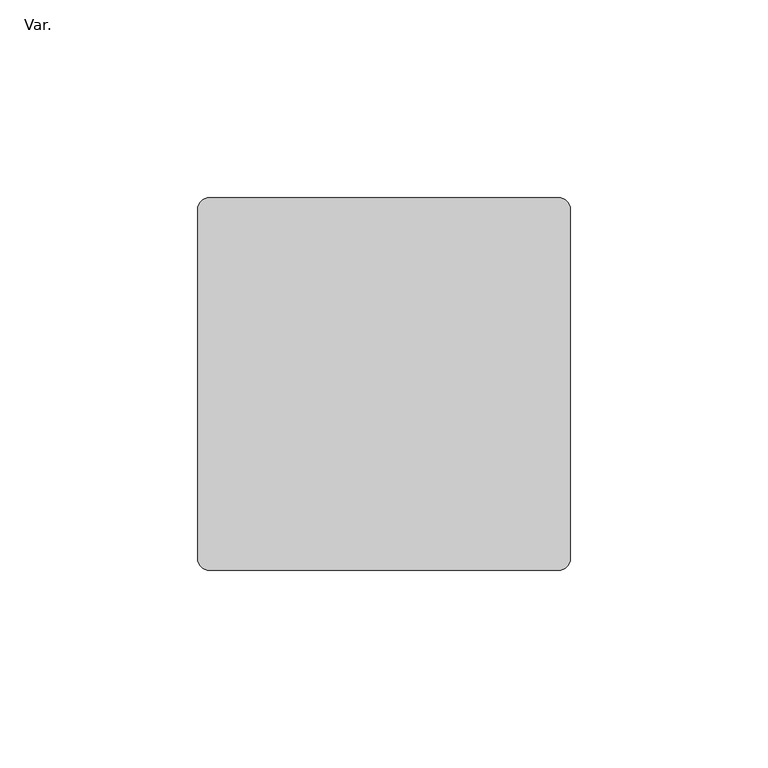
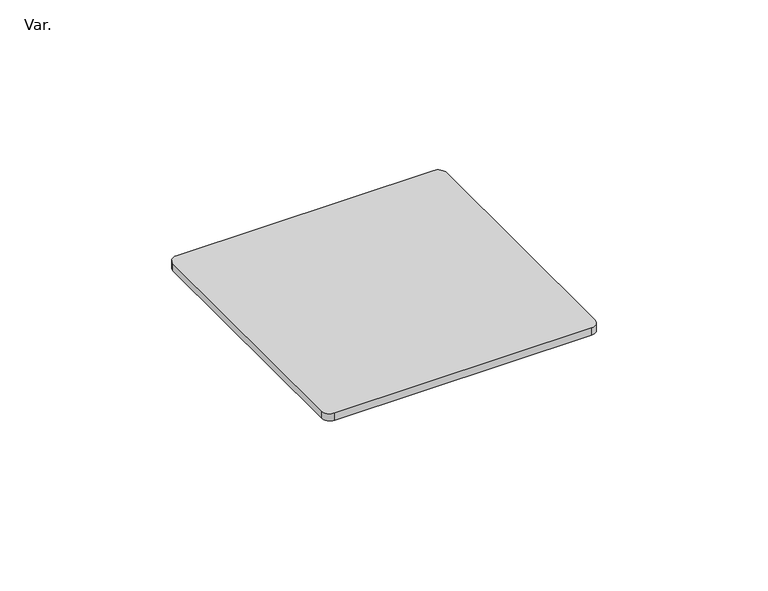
"""IFC4 building model written with IfcOpenShell, lengths in millimetres: pipe fitting geometry, AmancoWavin_ConexõesdeTubos_EsgotoZNãoUsarGrelhaSilentium : Var.."""

from ifc_helpers import new_model, si_unit, point, frame_2d, origin, origin_with_axes, place, context, project, spatial, polyline, circle_curve, trimmed, segment, composite_curve, outline, extrude, source, transform, mapped, element, save


def var_07da592b(model_context):
    return source(origin(), model_context, "Body", "SweptSolid", [
        extrude(outline(composite_curve([segment(trimmed(circle_curve(frame_2d((-26.2526442, 44.15)), 3.0), [point((-26.2526442, 47.15))], [point((-23.2526442, 44.15))], False, "CARTESIAN"), True, "CONTINUOUS"), segment(polyline([(-23.2526442, 44.15), (-23.2526442, -44.15)]), True, "CONTINUOUS"), segment(trimmed(circle_curve(frame_2d((-26.2526442, -44.15)), 3.0), [point((-23.2526442, -44.15))], [point((-26.2526442, -47.15))], False, "CARTESIAN"), True, "CONTINUOUS"), segment(polyline([(-26.2526442, -47.15), (-114.5526442, -47.15)]), True, "CONTINUOUS"), segment(trimmed(circle_curve(frame_2d((-114.5526442, -44.15)), 3.0), [point((-114.5526442, -47.15))], [point((-117.5526442, -44.15))], False, "CARTESIAN"), True, "CONTINUOUS"), segment(polyline([(-117.5526442, -44.15), (-117.5526442, 44.15)]), True, "CONTINUOUS"), segment(trimmed(circle_curve(frame_2d((-114.5526442, 44.15)), 3.0), [point((-117.5526442, 44.15))], [point((-114.5526442, 47.15))], False, "CARTESIAN"), True, "CONTINUOUS"), segment(polyline([(-114.5526442, 47.15), (-26.2526442, 47.15)]), True, "CONTINUOUS")], self_intersect=False)), origin_with_axes(), (0.0, 0.0, 1.0), 2.6),
    ])


if __name__ == "__main__":
    model = new_model("IFC4")
    model_context = context("Model", 3, world=origin())
    ifc_project = project(units=[si_unit("LENGTHUNIT", "METRE", prefix="MILLI")], contexts=[model_context])
    site = spatial("IfcSite", under=ifc_project)
    building = spatial("IfcBuilding", under=site)
    placement = place(None, origin())
    var_shape = var_07da592b(model_context)
    element("IfcPipeFitting", 1, ObjectType="AmancoWavin_ConexõesdeTubos_EsgotoZNãoUsarGrelhaSilentium : Var.", at=placement, inside=building, context=model_context, shape_type="MappedRepresentation", body=[
        mapped(var_shape, transform((0.0, 0.0, 0.0), x_axis=(1.0, 0.0, 0.0), y_axis=(0.0, 1.0, 0.0), z_axis=(0.0, 0.0, 1.0))),
    ])
    save(model, "model.ifc")
